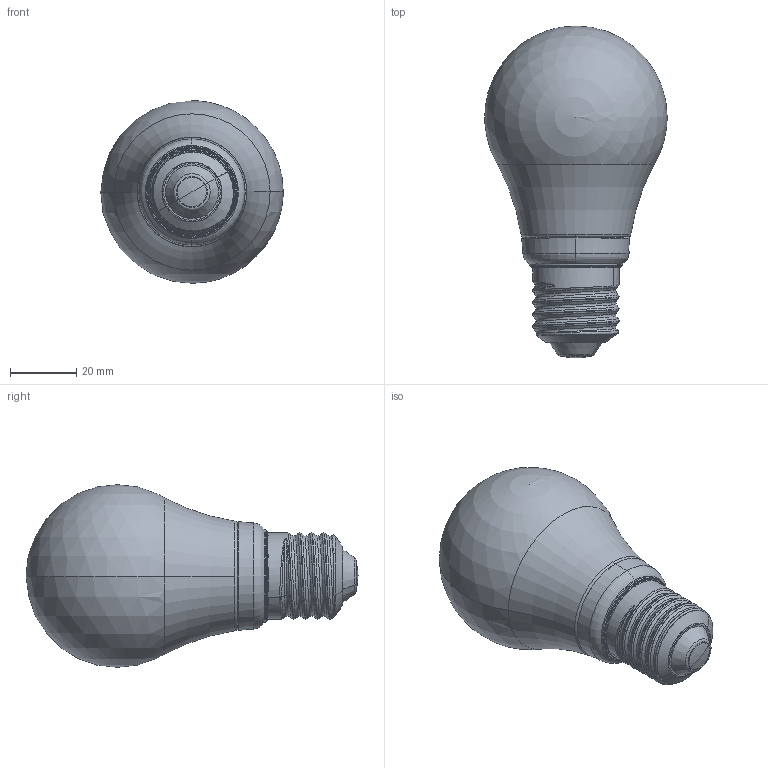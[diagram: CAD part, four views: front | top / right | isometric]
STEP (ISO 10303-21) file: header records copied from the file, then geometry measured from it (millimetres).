
FILE_DESCRIPTION(('FreeCAD Model'),'2;1');
FILE_NAME('Open CASCADE Shape Model','2024-04-30T11:54:05',( 'Lukas Balthasar Pank'),('Astera LED Technology GmbH'), 'Open CASCADE STEP processor 7.6','FreeCAD','Unknown');
FILE_SCHEMA(('AUTOMOTIVE_DESIGN { 1 0 10303 214 1 1 1 1 }'));
Length unit declared in the file: millimetre
Products named in the file (6): FP7-E27-3D; Diffuser-ForE27; COVER; Socket-E27; LampCup; MEC29149-Lamp cup-S
Assembly tree (5 placements, depth 3):
  FP7-E27-3D
    Diffuser-ForE27
    COVER
    Socket-E27
    LampCup
      MEC29149-Lamp cup-S
Bounding box: 54.96 x 100 x 55 mm (x, y, z)
Volume: 17459.6 mm3; surface area: 37001.5 mm2
Topology: 4 solids, 4 shells, 3393 faces, 9310 edges, 6178 vertices
Faces by surface type: bspline 1646, plane 999, cylinder 655, cone 50, torus 33, sphere 10
Entity records: 162571 total; most frequent: CARTESIAN_POINT 90443, ORIENTED_EDGE 18604, EDGE_CURVE 9302, DIRECTION 8708, VERTEX_POINT 6178, B_SPLINE_CURVE_WITH_KNOTS 5713, FACE_BOUND 3657, EDGE_LOOP 3657
